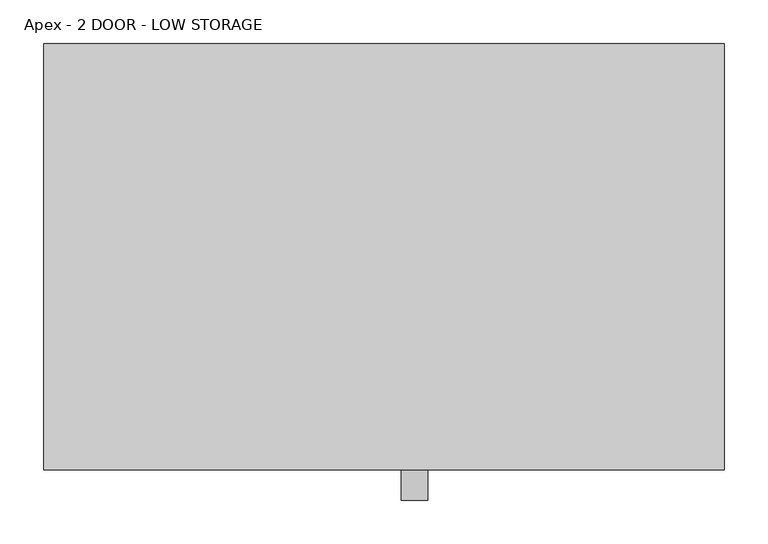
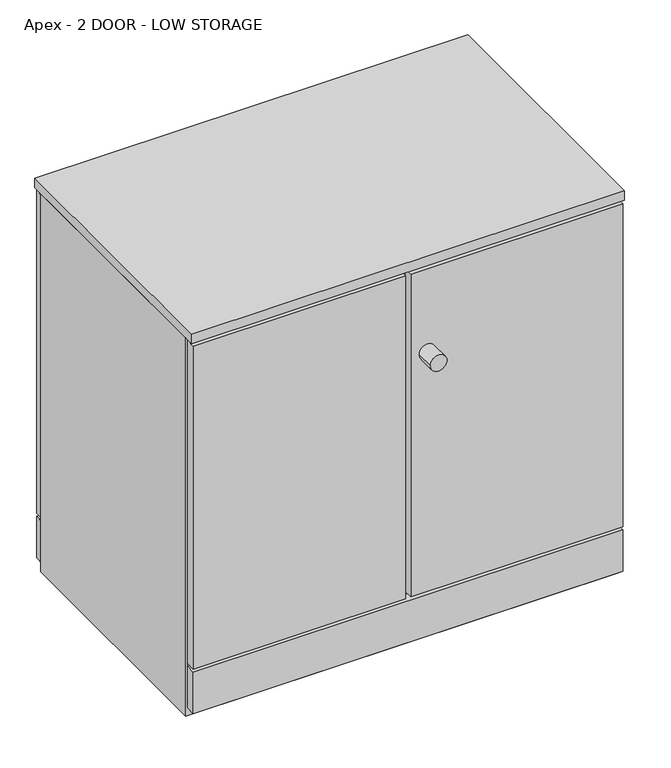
"""IFC4 building model written with IfcOpenShell, lengths in millimetres: furniture geometry, Apex - 2 DOOR - LOW STORAGE : APEX-SW-09-LOW STORAGE 2DR 800mm(w) x 490mm(d) x 740mm(h)."""

from ifc_helpers import new_model, si_unit, point, frame, frame_2d, origin, place, context, project, spatial, polyline, circle_curve, trimmed, segment, composite_curve, outline, extrude, source, transform, mapped, element, save


def apex_2_door_low_storage_540c3efe(model_context):
    return source(origin(), model_context, "Body", "SweptSolid", [
        extrude(outline(polyline([(782.0, -490.0), (0.0, -490.0), (0.0, 0.0), (782.0, 0.0), (782.0, -490.0)])), frame((0.0, 0.0, 722.0), z_axis=(0.0, 0.0, 1.0), x_axis=(1.0, 0.0, 0.0)), (0.0, 0.0, 1.0), 18.0),
        extrude(outline(composite_curve([segment(trimmed(circle_curve(frame_2d((557.0, 426.0)), 15.0), [point((557.0, 411.0))], [point((557.0, 441.0))], False, "CARTESIAN"), True, "CONTINUOUS"), segment(trimmed(circle_curve(frame_2d((557.0, 426.0)), 15.0), [point((557.0, 441.0))], [point((557.0, 411.0))], False, "CARTESIAN"), True, "CONTINUOUS")], self_intersect=False)), frame((0.0, -525.0, 0.0), z_axis=(0.0, 1.0, 0.0), x_axis=(0.0, 0.0, 1.0)), (0.0, 0.0, 1.0), 35.0),
        extrude(outline(polyline([(722.0, 782.0), (722.0, 0.0), (0.0, 0.0), (0.0, 782.0), (722.0, 782.0)]), holes=[polyline([(25.0, 779.0), (25.0, 3.0), (697.0, 3.0), (697.0, 779.0), (25.0, 779.0)])]), frame((0.0, -472.0, 0.0), z_axis=(0.0, 1.0, 0.0), x_axis=(0.0, 0.0, 1.0)), (0.0, 0.0, 1.0), 454.0),
        extrude(outline(polyline([(386.0, -472.0), (386.0, -490.0), (3.0, -490.0), (3.0, -472.0), (386.0, -472.0)])), frame((0.0, 0.0, 100.0), z_axis=(0.0, 0.0, 1.0), x_axis=(1.0, 0.0, 0.0)), (0.0, 0.0, 1.0), 616.0),
        extrude(outline(polyline([(779.0, -490.0), (396.0, -490.0), (396.0, -472.0), (779.0, -472.0), (779.0, -490.0)])), frame((0.0, 0.0, 100.0), z_axis=(0.0, 0.0, 1.0), x_axis=(1.0, 0.0, 0.0)), (0.0, 0.0, 1.0), 616.0),
        extrude(outline(polyline([(779.0, 0.0), (779.0, -18.0), (3.0, -18.0), (3.0, 0.0), (779.0, 0.0)])), frame((0.0, 0.0, 100.0), z_axis=(0.0, 0.0, 1.0), x_axis=(1.0, 0.0, 0.0)), (0.0, 0.0, 1.0), 616.0),
        extrude(outline(polyline([(779.0, -18.0), (3.0, -18.0), (3.0, 0.0), (779.0, 0.0), (779.0, -18.0)])), frame((0.0, 0.0, 15.0), z_axis=(0.0, 0.0, 1.0), x_axis=(1.0, 0.0, 0.0)), (0.0, 0.0, 1.0), 79.0),
        extrude(outline(polyline([(779.0, -490.0), (3.0, -490.0), (3.0, -472.0), (779.0, -472.0), (779.0, -490.0)])), frame((0.0, 0.0, 15.0), z_axis=(0.0, 0.0, 1.0), x_axis=(1.0, 0.0, 0.0)), (0.0, 0.0, 1.0), 79.0),
    ])


if __name__ == "__main__":
    model = new_model("IFC4")
    model_context = context("Model", 3, world=origin())
    ifc_project = project(units=[si_unit("LENGTHUNIT", "METRE", prefix="MILLI")], contexts=[model_context])
    site = spatial("IfcSite", under=ifc_project)
    building = spatial("IfcBuilding", under=site)
    placement = place(None, origin())
    apex_2_door_low_storage_shape = apex_2_door_low_storage_540c3efe(model_context)
    element("IfcFurniture", 1, ObjectType="Apex - 2 DOOR - LOW STORAGE : APEX-SW-09-LOW STORAGE 2DR 800mm(w) x 490mm(d) x 740mm(h)", at=placement, inside=building, context=model_context, shape_type="MappedRepresentation", body=[
        mapped(apex_2_door_low_storage_shape, transform((0.0, 0.0, 0.0), x_axis=(1.0, 0.0, 0.0), y_axis=(0.0, 1.0, 0.0), z_axis=(0.0, 0.0, 1.0))),
    ])
    save(model, "model.ifc")
